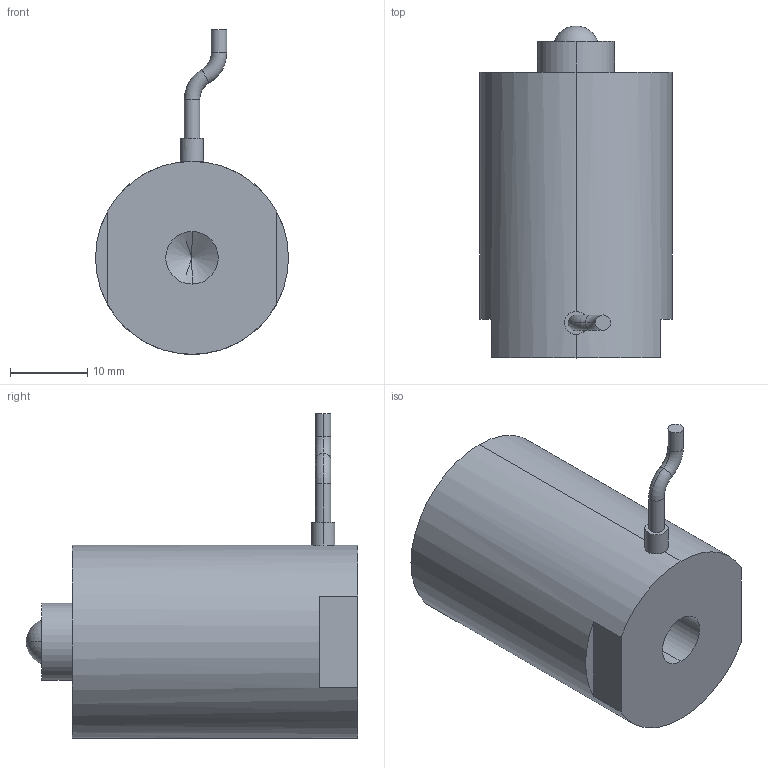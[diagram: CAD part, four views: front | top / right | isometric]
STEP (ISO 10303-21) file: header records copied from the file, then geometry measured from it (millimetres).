
FILE_DESCRIPTION (( 'STEP AP203' ), '1' );
FILE_NAME ('球头式20VS25.STEP', '2021-07-08T07:52:09', ( '微软用户' ), ( '微软公司' ), 'SwSTEP 2.0', 'SolidWorks 2016', '' );
FILE_SCHEMA (( 'CONFIG_CONTROL_DESIGN' ));
Length unit declared in the file: millimetre
Products named in the file (1): ⑩芛宒20VS25
Bounding box: 25 x 43 x 42.06 mm (x, y, z)
Volume: 18039.7 mm3; surface area: 4385.8 mm2
Topology: 1 solids, 1 shells, 932 faces, 2528 edges, 1680 vertices
Faces by surface type: bspline 515, plane 307, cylinder 102, torus 4, sphere 2, cone 2
Entity records: 44318 total; most frequent: CARTESIAN_POINT 25409, ORIENTED_EDGE 5044, EDGE_CURVE 2522, DIRECTION 1926, B_SPLINE_CURVE_WITH_KNOTS 1704, VERTEX_POINT 1678, EDGE_LOOP 1018, FACE_OUTER_BOUND 932
